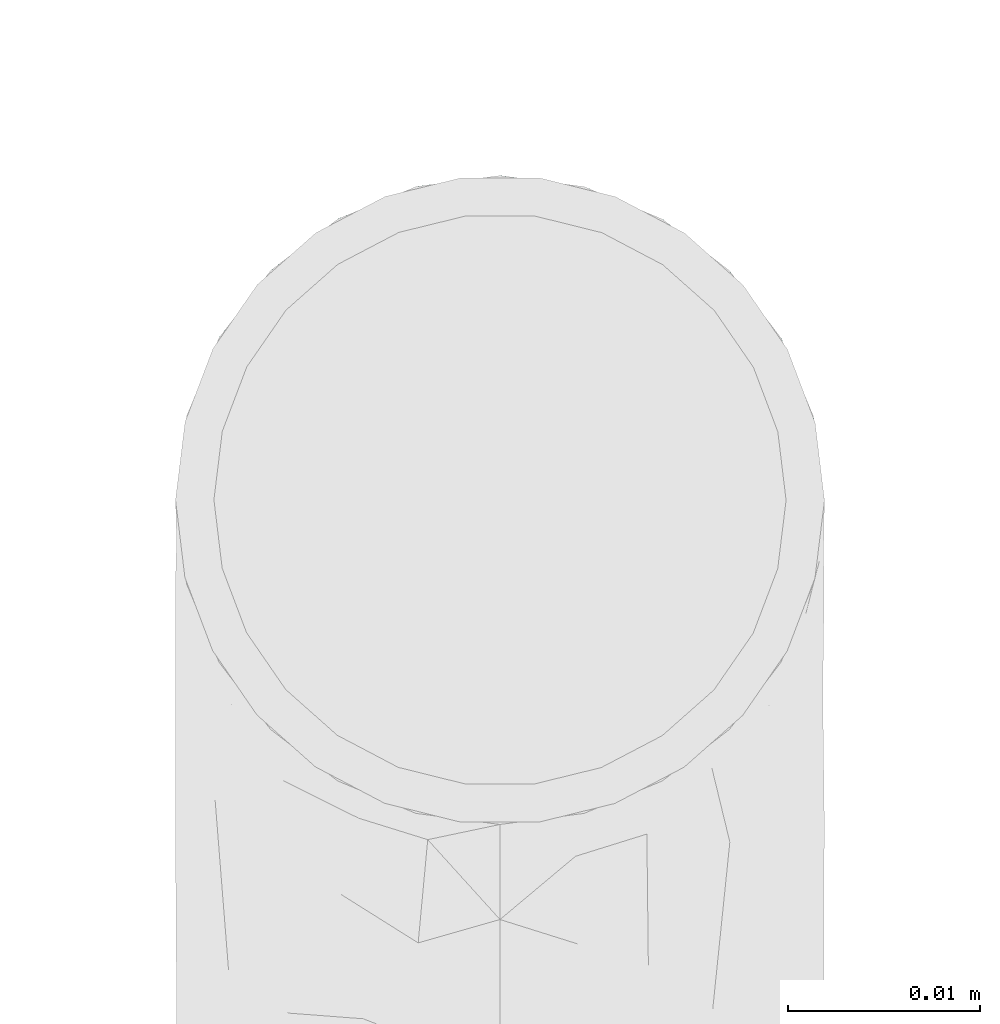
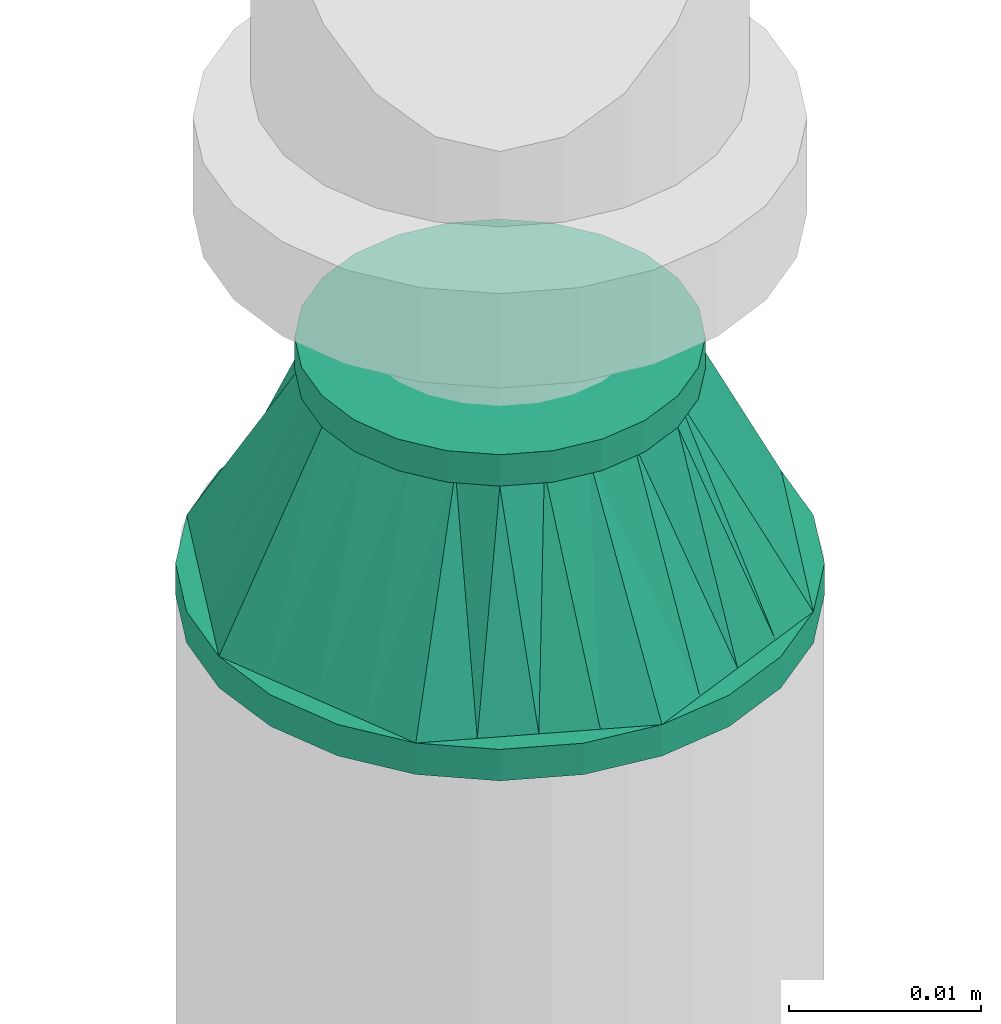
# One storey, part 55 of 94: 1 flow fitting.
"""IFC2X3 building model written with IfcOpenShell, lengths in millimetres."""

from ifc_helpers import new_model, entity, si_unit, converted_unit, derived_unit, direction, frame, origin_with_axes, place, context, subcontext, project, spatial, open_shell, surface_model, source, transform, mapped, type_object, element, save


model = new_model("IFC2X3")

# Units and contexts
model_context = context("Model", 3, precision=0.01, world=frame((0.0, 4.29681676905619e-09, 0.0)), true_north=direction((4.01073788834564e-13, 1.0)))
plan_context = context("Plan", 3, precision=0.01, world=frame((0.0, 4.29681676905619e-09, 0.0)), true_north=direction((4.01073788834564e-13, 1.0)))
body_context = subcontext(model_context, "Body", "Model", "MODEL_VIEW")
ifc_project = project(units=[converted_unit("PLANEANGLEUNIT", "DEGREE", entity("IfcPositiveLengthMeasure", 0.0174532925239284), si_unit("PLANEANGLEUNIT", "RADIAN"), dimensions=[0, 0, 0, 0, 0, 0, 0]), si_unit("AREAUNIT", "SQUARE_METRE"), si_unit("LENGTHUNIT", "METRE", prefix="MILLI"), si_unit("MASSUNIT", "GRAM", prefix="KILO"), si_unit("POWERUNIT", "WATT"), si_unit("PRESSUREUNIT", "PASCAL", prefix="KILO"), si_unit("FORCEUNIT", "NEWTON", prefix="KILO"), si_unit("ELECTRICVOLTAGEUNIT", "VOLT"), si_unit("ELECTRICCURRENTUNIT", "AMPERE"), si_unit("THERMODYNAMICTEMPERATUREUNIT", "DEGREE_CELSIUS"), si_unit("TIMEUNIT", "SECOND"), si_unit("VOLUMEUNIT", "CUBIC_METRE"), derived_unit("LINEARVELOCITYUNIT", [(si_unit("LENGTHUNIT", "METRE"), 1), (si_unit("TIMEUNIT", "SECOND"), -1)]), derived_unit("VOLUMETRICFLOWRATEUNIT", [(si_unit("VOLUMEUNIT", "CUBIC_METRE"), 1), (si_unit("TIMEUNIT", "SECOND"), -1)]), derived_unit("THERMALTRANSMITTANCEUNIT", [(si_unit("POWERUNIT", "WATT"), 1), (si_unit("THERMODYNAMICTEMPERATUREUNIT", "KELVIN"), -1), (si_unit("AREAUNIT", "SQUARE_METRE"), -1)]), derived_unit("SOUNDPRESSUREUNIT", [(si_unit("PRESSUREUNIT", "PASCAL"), 1)])], contexts=[model_context, plan_context])

# Site, building, storey
site_placement = place(None, frame((0.0, -4.29681676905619e-09, 0.0), z_axis=(0.0, 0.0, 1.0), x_axis=(1.0, 0.0, 0.0)))
site = spatial("IfcSite", under=ifc_project, at=site_placement, CompositionType="ELEMENT")
building_placement = place(site_placement, frame((0.0, 4.29681676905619e-09, 0.0), z_axis=(0.0, 0.0, 1.0), x_axis=(1.0, 0.0, 0.0)))
building = spatial("IfcBuilding", under=site, at=building_placement, Name="mc-building", CompositionType="ELEMENT")
storey_placement = place(building_placement, frame((0.0, 0.0, 210900.0), z_axis=(0.0, 0.0, 1.0), x_axis=(1.0, 0.0, 0.0)))
storey = spatial("IfcBuildingStorey", under=building, at=storey_placement, Name="Nivå F", CompositionType="ELEMENT", Elevation=210900.0)

# Flow fitting
pipe_fitting_type = type_object("IfcPipeFittingType", Name="magi_pipe_fe_reducer_centric_short_NOR", PredefinedType="TRANSITION")
shared_shape = source(origin_with_axes(), body_context, "Body", "SurfaceModel", [
    surface_model("IfcShellBasedSurfaceModel", [(14.4, 5.35, -9.26647), (14.4, 0.0, -10.7), (14.4, 2.76936, -10.33541), (14.4, 10.33541, -2.76936), (14.4, 7.56604, -7.56604), (14.4, -10.33541, -2.76936), (14.4, 9.26647, -5.35), (14.4, 0.0, 10.7), (14.4, -5.35, -9.26647), (14.4, -2.76936, -10.33541), (14.4, -7.56604, -7.56604), (14.4, -9.26647, -5.35), (14.4, 10.7, 0.0), (14.4, 10.33541, 2.76936), (14.4, 9.26647, 5.35), (14.4, 7.56604, 7.56604), (14.4, 2.76936, 10.33541), (14.4, 5.35, 9.26647), (14.4, -10.33541, 2.76936), (14.4, -7.56604, 7.56604), (14.4, -9.26647, 5.35), (14.4, -10.7, 0.0), (14.4, -2.76936, 10.33541), (14.4, -5.35, 9.26647), (12.4, 2.76936, 10.33541), (12.4, -10.33541, -2.76936), (12.4, 0.0, 10.7), (12.4, 5.35, 9.26647), (12.4, 7.56604, 7.56604), (12.4, 9.26647, 5.35), (12.4, 10.33541, 2.76936), (12.4, -10.33541, 2.76936), (12.4, -2.76936, 10.33541), (12.4, -7.56604, 7.56604), (12.4, -5.35, 9.26647), (12.4, -9.26647, 5.35), (12.4, -10.7, 0.0), (12.4, 10.33541, -2.76936), (12.4, 5.35, -9.26647), (12.4, 9.26647, -5.35), (12.4, 7.56604, -7.56604), (12.4, 2.76936, -10.33541), (12.4, -9.26647, -5.35), (12.4, -5.35, -9.26647), (12.4, -7.56604, -7.56604), (12.4, 0.0, -10.7), (12.4, -2.76936, -10.33541), (12.4, 10.7, 0.0), (-2.0, 11.9501, 11.9501), (-2.0, 0.0, 16.9), (-2.0, 4.37404, 16.32415), (-2.0, 8.45, 14.63583), (-2.0, 14.63583, 8.45), (-2.0, 16.32415, 4.37404), (-2.0, -16.32415, 4.37404), (-2.0, -8.45, 14.63583), (-2.0, -14.63583, 8.45), (-2.0, -11.9501, 11.9501), (-2.0, -4.37404, 16.32415), (-2.0, -16.32415, -4.37404), (-2.0, -16.9, 0.0), (-2.0, -8.45, -14.63583), (-2.0, 16.32415, -4.37404), (-2.0, 11.9501, -11.9501), (-2.0, 14.63583, -8.45), (-2.0, 8.45, -14.63583), (-2.0, 4.37404, -16.32415), (-2.0, 0.0, -16.9), (-2.0, -11.9501, -11.9501), (-2.0, -14.63583, -8.45), (-2.0, -4.37404, -16.32415), (-2.0, 16.9, 0.0), (0.0, 4.37404, -16.32415), (0.0, 8.45, -14.63583), (0.0, 11.9501, -11.9501), (0.0, 0.0, -16.9), (0.0, 16.32415, -4.37404), (0.0, 16.32415, 4.37404), (0.0, 14.63583, -8.45), (0.0, -8.45, -14.63583), (0.0, -4.37404, -16.32415), (0.0, -11.9501, -11.9501), (0.0, -16.32415, -4.37404), (0.0, -14.63583, -8.45), (0.0, -16.32415, 4.37404), (0.0, 16.9, 0.0), (0.0, 14.63583, 8.45), (0.0, 11.9501, 11.9501), (0.0, 4.37404, 16.32415), (0.0, 8.45, 14.63583), (0.0, 0.0, 16.9), (0.0, -14.63583, 8.45), (0.0, -16.9, 0.0), (0.0, -8.45, 14.63583), (0.0, -11.9501, 11.9501), (0.0, -4.37404, 16.32415), (12.4, 9.3625, -2.31662), (0.0, 14.42505, -5.97505), (0.0, 15.66253, -2.98753), (12.4, -6.6875, -6.94985), (0.0, -13.18758, -8.96258), (0.0, 2.98753, -15.66253), (12.4, 0.0, -9.26647), (12.4, 6.6875, -6.94985), (0.0, 8.96258, -13.18758), (12.4, -9.3625, -2.31662), (0.0, -15.66253, -2.98753), (0.0, -14.42505, -5.97505), (0.0, 5.97505, -14.42505), (0.0, -2.98753, -15.66253), (0.0, -8.96258, -13.18758), (0.0, 13.18758, -8.96258), (12.4, 8.025, -4.63324), (12.4, -2.675, -9.26647), (12.4, 2.675, -9.26647), (0.0, -5.97505, -14.42505), (12.4, -8.025, -4.63324), (12.4, -9.3625, 2.31662), (0.0, -14.42505, 5.97505), (0.0, -15.66253, 2.98753), (12.4, 6.6875, 6.94985), (0.0, 13.18758, 8.96258), (0.0, -2.98753, 15.66253), (12.4, 0.0, 9.26647), (12.4, -6.6875, 6.94985), (0.0, -8.96258, 13.18758), (12.4, 9.3625, 2.31662), (0.0, 15.66253, 2.98753), (0.0, 14.42505, 5.97505), (0.0, -5.97505, 14.42505), (0.0, 2.98753, 15.66253), (0.0, 8.96258, 13.18758), (0.0, -13.18758, 8.96258), (12.4, -8.025, 4.63324), (12.4, 2.675, 9.26647), (12.4, -2.675, 9.26647), (0.0, 5.97505, 14.42505), (12.4, 8.025, 4.63324)], [open_shell([[[0, 1, 2]], [[3, 0, 4]], [[5, 0, 3]], [[3, 4, 6]], [[7, 5, 3]], [[1, 8, 9]], [[1, 0, 8]], [[10, 5, 11]], [[5, 10, 8]], [[0, 5, 8]], [[3, 12, 13]], [[13, 14, 15]], [[13, 15, 16]], [[7, 3, 16]], [[16, 15, 17]], [[7, 18, 5]], [[18, 19, 20]], [[21, 5, 18]], [[19, 22, 23]], [[22, 19, 18]], [[7, 22, 18]], [[13, 16, 3]], [[24, 25, 26]], [[27, 25, 24]], [[28, 29, 30]], [[28, 25, 27]], [[31, 26, 25]], [[32, 33, 34]], [[33, 32, 31]], [[33, 31, 35]], [[32, 26, 31]], [[31, 25, 36]], [[30, 37, 28]], [[25, 28, 37]], [[38, 37, 39]], [[37, 38, 25]], [[38, 39, 40]], [[41, 25, 38]], [[42, 43, 44]], [[43, 42, 25]], [[43, 45, 46]], [[43, 25, 41]], [[41, 45, 43]], [[37, 30, 47]], [[25, 5, 36]], [[42, 11, 25]], [[8, 44, 43]], [[42, 44, 10]], [[9, 43, 46]], [[25, 11, 5]], [[5, 21, 36]], [[9, 8, 43]], [[10, 44, 8]], [[10, 11, 42]], [[1, 9, 46]], [[46, 45, 1]], [[41, 2, 45]], [[38, 0, 41]], [[6, 40, 39]], [[38, 40, 4]], [[3, 39, 37]], [[38, 4, 0]], [[0, 2, 41]], [[12, 3, 37]], [[6, 39, 3]], [[6, 4, 40]], [[47, 12, 37]], [[45, 2, 1]], [[30, 13, 47]], [[29, 14, 30]], [[17, 28, 27]], [[29, 28, 15]], [[16, 27, 24]], [[30, 14, 13]], [[13, 12, 47]], [[16, 17, 27]], [[15, 28, 17]], [[15, 14, 29]], [[7, 16, 24]], [[24, 26, 7]], [[32, 22, 26]], [[34, 23, 32]], [[20, 33, 35]], [[34, 33, 19]], [[18, 35, 31]], [[34, 19, 23]], [[23, 22, 32]], [[21, 18, 31]], [[20, 35, 18]], [[20, 19, 33]], [[36, 21, 31]], [[26, 22, 7]], [[48, 49, 50]], [[48, 50, 51]], [[48, 52, 53]], [[48, 53, 49]], [[49, 53, 54]], [[55, 56, 57]], [[55, 58, 49]], [[56, 55, 49]], [[49, 54, 56]], [[54, 59, 60]], [[54, 53, 61]], [[53, 62, 63]], [[63, 62, 64]], [[63, 65, 66]], [[61, 53, 63]], [[67, 63, 66]], [[59, 68, 69]], [[68, 59, 61]], [[61, 67, 70]], [[59, 54, 61]], [[63, 67, 61]], [[53, 71, 62]], [[72, 73, 74]], [[75, 72, 74]], [[74, 76, 77]], [[76, 74, 78]], [[74, 77, 79]], [[75, 79, 80]], [[75, 74, 79]], [[81, 82, 83]], [[82, 81, 79]], [[79, 84, 82]], [[77, 76, 85]], [[77, 86, 87]], [[77, 87, 88]], [[88, 84, 79]], [[88, 87, 89]], [[84, 88, 90]], [[90, 91, 84]], [[92, 82, 84]], [[91, 93, 94]], [[91, 90, 93]], [[93, 90, 95]], [[79, 77, 88]], [[59, 82, 60]], [[69, 83, 59]], [[79, 68, 61]], [[69, 68, 81]], [[80, 61, 70]], [[59, 83, 82]], [[82, 92, 60]], [[80, 79, 61]], [[81, 68, 79]], [[81, 83, 69]], [[75, 80, 70]], [[70, 67, 75]], [[66, 72, 67]], [[65, 73, 66]], [[78, 63, 64]], [[65, 63, 74]], [[76, 64, 62]], [[65, 74, 73]], [[73, 72, 66]], [[85, 76, 62]], [[78, 64, 76]], [[78, 74, 63]], [[71, 85, 62]], [[67, 72, 75]], [[53, 77, 71]], [[52, 86, 53]], [[89, 48, 51]], [[52, 48, 87]], [[88, 51, 50]], [[53, 86, 77]], [[77, 85, 71]], [[88, 89, 51]], [[87, 48, 89]], [[87, 86, 52]], [[90, 88, 50]], [[50, 49, 90]], [[58, 95, 49]], [[55, 93, 58]], [[91, 57, 56]], [[55, 57, 94]], [[84, 56, 54]], [[55, 94, 93]], [[93, 95, 58]], [[92, 84, 54]], [[91, 56, 84]], [[91, 94, 57]], [[60, 92, 54]], [[49, 95, 90]], [[27, 34, 47]], [[47, 34, 43]], [[43, 38, 47]], [[43, 34, 36]], [[90, 87, 94]], [[92, 94, 87]], [[87, 74, 92]], [[75, 92, 74]], [[81, 92, 75]], [[74, 87, 85]], [[96, 97, 98]], [[81, 99, 100]], [[101, 102, 75]], [[98, 85, 47]], [[74, 103, 104]], [[104, 103, 38]], [[105, 106, 107]], [[38, 108, 104]], [[102, 109, 75]], [[110, 99, 81]], [[47, 96, 98]], [[103, 111, 112]], [[109, 102, 113]], [[36, 92, 106]], [[102, 101, 114]], [[110, 115, 43]], [[96, 112, 97]], [[107, 116, 105]], [[36, 106, 105]], [[113, 115, 109]], [[43, 115, 113]], [[116, 107, 100]], [[108, 38, 114]], [[111, 103, 74]], [[111, 97, 112]], [[99, 110, 43]], [[116, 100, 99]], [[101, 108, 114]], [[117, 118, 119]], [[87, 120, 121]], [[122, 123, 90]], [[119, 92, 36]], [[94, 124, 125]], [[125, 124, 34]], [[126, 127, 128]], [[34, 129, 125]], [[123, 130, 90]], [[131, 120, 87]], [[36, 117, 119]], [[124, 132, 133]], [[130, 123, 134]], [[47, 85, 127]], [[123, 122, 135]], [[131, 136, 27]], [[117, 133, 118]], [[128, 137, 126]], [[47, 127, 126]], [[134, 136, 130]], [[27, 136, 134]], [[137, 128, 121]], [[129, 34, 135]], [[132, 124, 94]], [[132, 118, 133]], [[120, 131, 27]], [[137, 121, 120]], [[122, 129, 135]]])]),
])
flow_fitting_placement = place(storey_placement, frame((726197.10222, 437273.06941, 4357.64799999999), z_axis=(-0.000893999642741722, -0.99999960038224, 0.0), x_axis=(0.0, 0.0, 1.0)))
element("IfcFlowFitting", 1, at=flow_fitting_placement, inside=storey, type_object=pipe_fitting_type, Name="magi_pipe_fe_reducer_centric_short_NOR", context=body_context, shape_type="MappedRepresentation", body=[
    mapped(shared_shape, transform((0.0, 0.0, 0.0), scale=1.0)),
])

save(model, "model.ifc")
